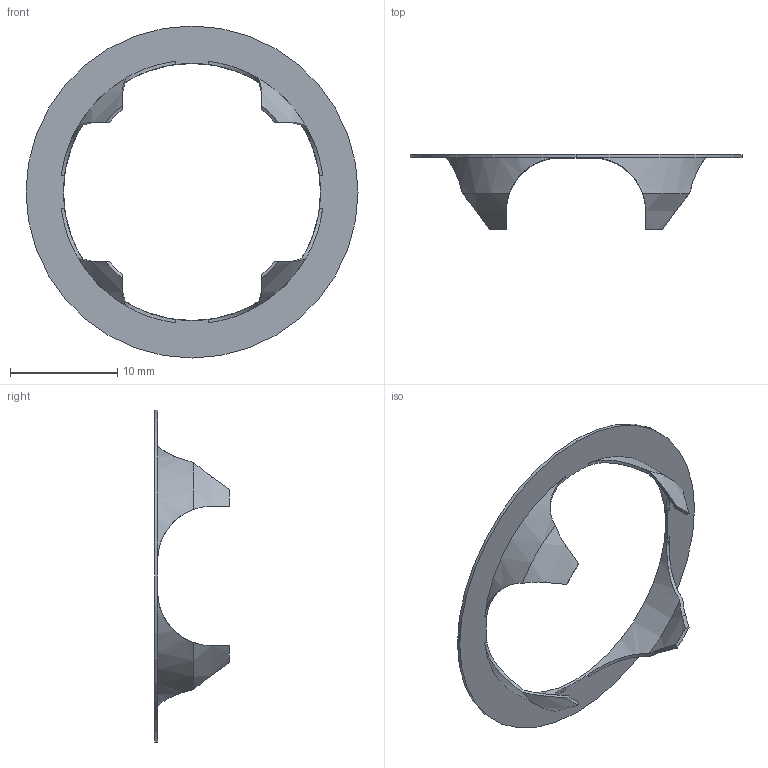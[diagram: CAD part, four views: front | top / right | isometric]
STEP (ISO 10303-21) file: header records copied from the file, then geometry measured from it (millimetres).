
FILE_DESCRIPTION (( 'STEP AP214' ), '1' );
FILE_NAME ('509.3-31-A.step', '2023-07-06T13:20:26', ( '' ), ( '' ), 'SwSTEP 2.0', 'SolidWorks 2022', '' );
FILE_SCHEMA (( 'AUTOMOTIVE_DESIGN' ));
Length unit declared in the file: millimetre
Products named in the file (1): 509.3-31-A
Bounding box: 31 x 7 x 31 mm (x, y, z)
Volume: 143.6 mm3; surface area: 1019.4 mm2
Topology: 1 solids, 1 shells, 38 faces, 108 edges, 72 vertices
Faces by surface type: cylinder 16, cone 12, plane 10
Entity records: 1550 total; most frequent: CARTESIAN_POINT 599, ORIENTED_EDGE 216, DIRECTION 162, EDGE_CURVE 108, VERTEX_POINT 72, AXIS2_PLACEMENT_3D 71, B_SPLINE_CURVE_WITH_KNOTS 56, EDGE_LOOP 40
